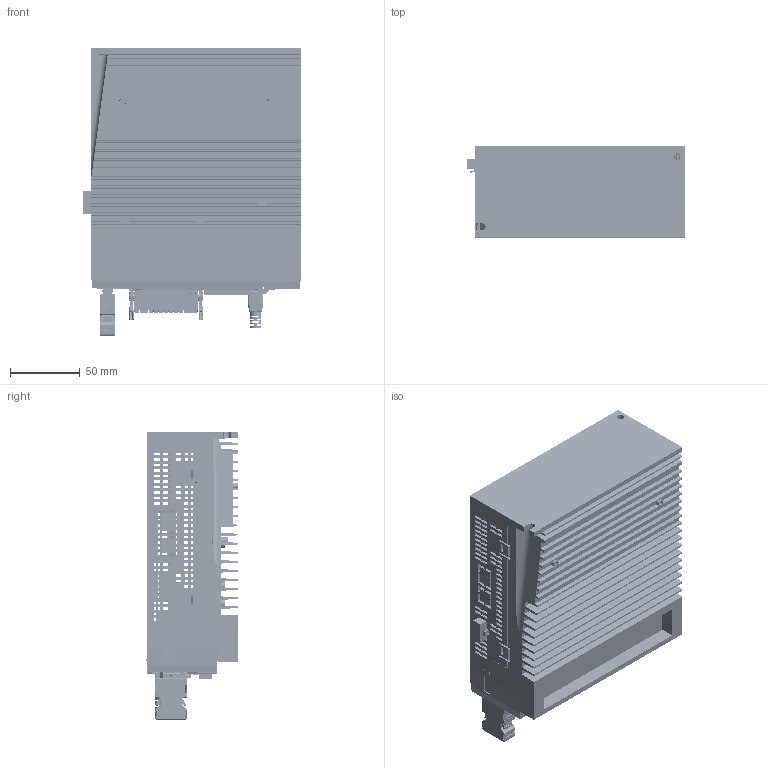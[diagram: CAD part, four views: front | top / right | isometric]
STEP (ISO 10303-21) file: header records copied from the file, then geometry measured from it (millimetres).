
FILE_DESCRIPTION((''),'2;1');
FILE_NAME('M56S-24A5ECX','2023-08-15T19:09:32',('ms27526'),(''),'CREO PARAMETRIC BY PTC INC, 2018100','CREO PARAMETRIC BY PTC INC, 2018100','');
FILE_SCHEMA(('CONFIG_CONTROL_DESIGN'));
Products named in the file (1): M56S-24A5ECX
Bounding box: 155.36 x 65.2 x 205.43 mm (x, y, z)
Volume: 354975.6 mm3; surface area: 357385.2 mm2
Topology: 14 solids, 80 shells, 16421 faces, 44908 edges, 28172 vertices
Faces by surface type: plane 9095, cylinder 4750, cone 1184, bspline 717, torus 447, sphere 182, extrusion 46
Entity records: 573692 total; most frequent: CARTESIAN_POINT 163639, ORIENTED_EDGE 87875, DIRECTION 80938, EDGE_CURVE 44434, VECTOR 30032, LINE 29986, VERTEX_POINT 28172, AXIS2_PLACEMENT_3D 25453
